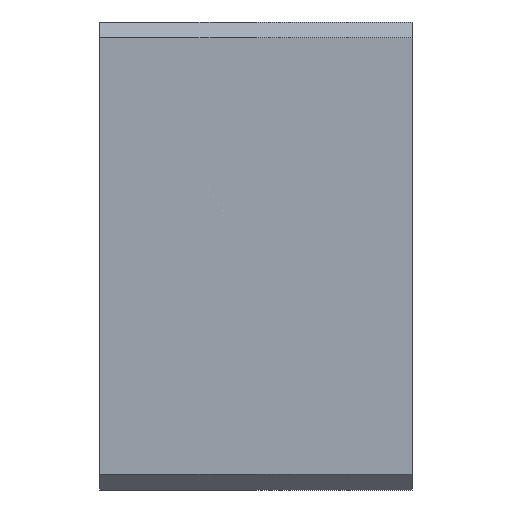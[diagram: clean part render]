
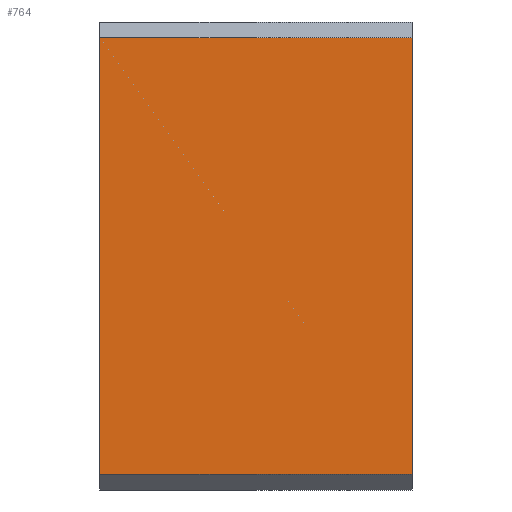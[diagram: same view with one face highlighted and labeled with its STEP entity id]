
A CAD part, left-side view. The second image highlights one B-rep face of the part: STEP entity #764.
In plain terms, the highlighted planar face has unit normal (-1, 0, 0).
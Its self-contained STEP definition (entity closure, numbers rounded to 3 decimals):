
#5=DIRECTION('',(0.,0.,1.));
#6=VECTOR('',#5,56.);
#7=CARTESIAN_POINT('',(-62.5,-20.,-28.));
#8=LINE('',#7,#6);
#115=DIRECTION('',(0.,-1.,0.));
#116=VECTOR('',#115,40.);
#117=CARTESIAN_POINT('',(-62.5,20.,-28.));
#118=LINE('',#117,#116);
#119=DIRECTION('',(0.,-1.,0.));
#120=VECTOR('',#119,40.);
#121=CARTESIAN_POINT('',(-62.5,20.,28.));
#122=LINE('',#121,#120);
#151=DIRECTION('',(0.,0.,1.));
#152=VECTOR('',#151,56.);
#153=CARTESIAN_POINT('',(-62.5,20.,-28.));
#154=LINE('',#153,#152);
#461=CARTESIAN_POINT('',(-62.5,-20.,-28.));
#463=VERTEX_POINT('',#461);
#467=CARTESIAN_POINT('',(-62.5,20.,-28.));
#468=VERTEX_POINT('',#467);
#470=CARTESIAN_POINT('',(-62.5,-20.,28.));
#472=VERTEX_POINT('',#470);
#473=CARTESIAN_POINT('',(-62.5,20.,28.));
#474=VERTEX_POINT('',#473);
#752=CARTESIAN_POINT('',(-62.5,-20.,-30.));
#753=DIRECTION('',(-1.,0.,0.));
#754=DIRECTION('',(0.,0.,1.));
#755=AXIS2_PLACEMENT_3D('',#752,#753,#754);
#756=PLANE('',#755);
#757=ORIENTED_EDGE('',*,*,#663,.F.);
#759=ORIENTED_EDGE('',*,*,#758,.T.);
#760=ORIENTED_EDGE('',*,*,#744,.T.);
#761=ORIENTED_EDGE('',*,*,#602,.F.);
#762=EDGE_LOOP('',(#757,#759,#760,#761));
#763=FACE_OUTER_BOUND('',#762,.F.);
#764=ADVANCED_FACE('',(#763),#756,.T.);
#602=EDGE_CURVE('',#463,#472,#8,.T.);
#663=EDGE_CURVE('',#468,#463,#118,.T.);
#744=EDGE_CURVE('',#474,#472,#122,.T.);
#758=EDGE_CURVE('',#468,#474,#154,.T.);
